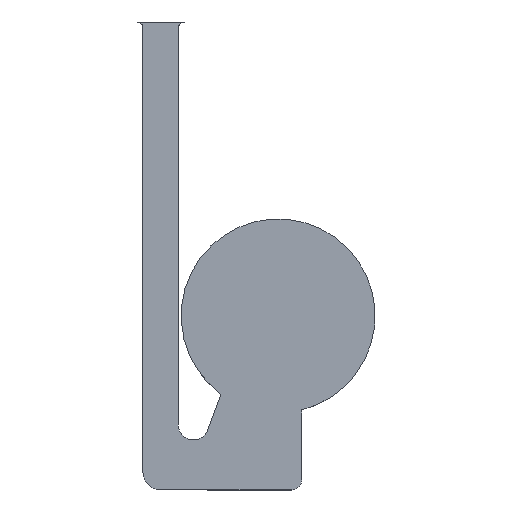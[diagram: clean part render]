
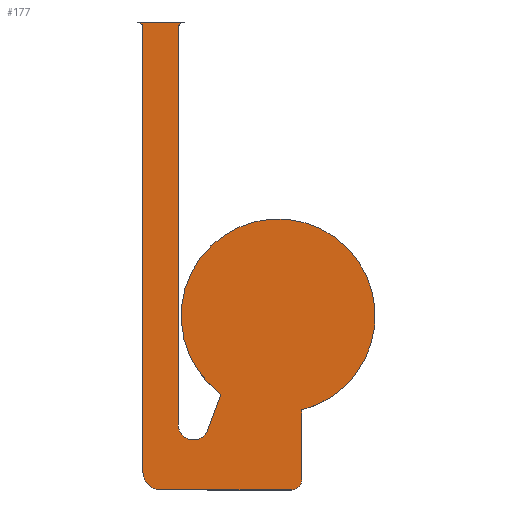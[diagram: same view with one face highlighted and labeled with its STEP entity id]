
A CAD part, top view. The second image highlights one B-rep face of the part: STEP entity #177.
In plain terms, the highlighted planar face has unit normal (0, 0, 1).
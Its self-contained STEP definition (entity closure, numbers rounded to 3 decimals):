
#177 = ADVANCED_FACE( '', ( #428 ), #429, .T. );
#428 = FACE_OUTER_BOUND( '', #764, .T. );
#429 = PLANE( '', #765 );
#764 = EDGE_LOOP( '', ( #1229, #1230, #1231, #1232, #1233, #1234, #1235, #1236, #1237, #1238, #1239, #1240 ) );
#765 = AXIS2_PLACEMENT_3D( '', #1241, #1242, #1243 );
#1229 = ORIENTED_EDGE( '', *, *, #1848, .F. );
#1230 = ORIENTED_EDGE( '', *, *, #1849, .T. );
#1231 = ORIENTED_EDGE( '', *, *, #1829, .F. );
#1232 = ORIENTED_EDGE( '', *, *, #1850, .T. );
#1233 = ORIENTED_EDGE( '', *, *, #1851, .F. );
#1234 = ORIENTED_EDGE( '', *, *, #1790, .T. );
#1235 = ORIENTED_EDGE( '', *, *, #1852, .T. );
#1236 = ORIENTED_EDGE( '', *, *, #1726, .F. );
#1237 = ORIENTED_EDGE( '', *, *, #1787, .T. );
#1238 = ORIENTED_EDGE( '', *, *, #1755, .F. );
#1239 = ORIENTED_EDGE( '', *, *, #1853, .F. );
#1240 = ORIENTED_EDGE( '', *, *, #1854, .F. );
#1241 = CARTESIAN_POINT( '', ( -250., -250., 0. ) );
#1242 = DIRECTION( '', ( 0., 0., 1. ) );
#1243 = DIRECTION( '', ( 0., -1., 0. ) );
#1726 = EDGE_CURVE( '', #2008, #2010, #2011, .F. );
#1755 = EDGE_CURVE( '', #2057, #2060, #2061, .F. );
#1787 = EDGE_CURVE( '', #2008, #2060, #2112, .F. );
#1790 = EDGE_CURVE( '', #2115, #2116, #2117, .T. );
#1829 = EDGE_CURVE( '', #2178, #2180, #2181, .F. );
#1848 = EDGE_CURVE( '', #2209, #2210, #2211, .F. );
#1849 = EDGE_CURVE( '', #2209, #2180, #2212, .T. );
#1850 = EDGE_CURVE( '', #2178, #2213, #2214, .F. );
#1851 = EDGE_CURVE( '', #2115, #2213, #2215, .T. );
#1852 = EDGE_CURVE( '', #2116, #2010, #2216, .F. );
#1853 = EDGE_CURVE( '', #2217, #2057, #2218, .F. );
#1854 = EDGE_CURVE( '', #2210, #2217, #2219, .T. );
#2008 = VERTEX_POINT( '', #2415 );
#2010 = VERTEX_POINT( '', #2418 );
#2011 = LINE( '', #2419, #2420 );
#2057 = VERTEX_POINT( '', #2483 );
#2060 = VERTEX_POINT( '', #2487 );
#2061 = LINE( '', #2488, #2489 );
#2112 = CIRCLE( '', #2554, 82.5 );
#2115 = VERTEX_POINT( '', #2557 );
#2116 = VERTEX_POINT( '', #2558 );
#2117 = LINE( '', #2559, #2560 );
#2178 = VERTEX_POINT( '', #2645 );
#2180 = VERTEX_POINT( '', #2648 );
#2181 = CIRCLE( '', #2649, 5. );
#2209 = VERTEX_POINT( '', #2682 );
#2210 = VERTEX_POINT( '', #2683 );
#2211 = CIRCLE( '', #2684, 5. );
#2212 = LINE( '', #2685, #2686 );
#2213 = VERTEX_POINT( '', #2687 );
#2214 = LINE( '', #2688, #2689 );
#2215 = CIRCLE( '', #2690, 15. );
#2216 = CIRCLE( '', #2691, 8.853 );
#2217 = VERTEX_POINT( '', #2692 );
#2218 = CIRCLE( '', #2693, 13. );
#2219 = LINE( '', #2694, #2695 );
#2415 = CARTESIAN_POINT( '', ( 20., -80.039, 0. ) );
#2418 = CARTESIAN_POINT( '', ( 20., -139.147, 0. ) );
#2419 = CARTESIAN_POINT( '', ( 20., -250., 0. ) );
#2420 = VECTOR( '', #2949, 1000. );
#2483 = CARTESIAN_POINT( '', ( -59.784, -97.008, 0. ) );
#2487 = CARTESIAN_POINT( '', ( -48.711, -66.585, 0. ) );
#2488 = CARTESIAN_POINT( '', ( -66.868, -116.471, 0. ) );
#2489 = VECTOR( '', #2980, 1000. );
#2554 = AXIS2_PLACEMENT_3D( '', #3025, #3026, #3027 );
#2557 = CARTESIAN_POINT( '', ( -100., -148., 0. ) );
#2558 = CARTESIAN_POINT( '', ( 11.147, -148., 0. ) );
#2559 = CARTESIAN_POINT( '', ( -60.404, -148., 0. ) );
#2560 = VECTOR( '', #3031, 1000. );
#2645 = CARTESIAN_POINT( '', ( -115., 245., 0. ) );
#2648 = CARTESIAN_POINT( '', ( -120., 250., 0. ) );
#2649 = AXIS2_PLACEMENT_3D( '', #3092, #3093, #3094 );
#2682 = CARTESIAN_POINT( '', ( -80., 250., 0. ) );
#2683 = CARTESIAN_POINT( '', ( -85., 245., 0. ) );
#2684 = AXIS2_PLACEMENT_3D( '', #3124, #3125, #3126 );
#2685 = CARTESIAN_POINT( '', ( 250., 250., 0. ) );
#2686 = VECTOR( '', #3127, 1000. );
#2687 = CARTESIAN_POINT( '', ( -115., -133., 0. ) );
#2688 = CARTESIAN_POINT( '', ( -115., 260., 0. ) );
#2689 = VECTOR( '', #3128, 1000. );
#2690 = AXIS2_PLACEMENT_3D( '', #3129, #3130, #3131 );
#2691 = AXIS2_PLACEMENT_3D( '', #3132, #3133, #3134 );
#2692 = CARTESIAN_POINT( '', ( -85., -92.561, 0. ) );
#2693 = AXIS2_PLACEMENT_3D( '', #3135, #3136, #3137 );
#2694 = CARTESIAN_POINT( '', ( -85., -250., 0. ) );
#2695 = VECTOR( '', #3138, 1000. );
#2949 = DIRECTION( '', ( 0., 1., 0. ) );
#2980 = DIRECTION( '', ( -0.342, -0.94, 0. ) );
#3025 = CARTESIAN_POINT( '', ( 0., 0., 0. ) );
#3026 = DIRECTION( '', ( 0., 0., -1. ) );
#3027 = DIRECTION( '', ( -1., 0., 0. ) );
#3031 = DIRECTION( '', ( 1., 0., 0. ) );
#3092 = CARTESIAN_POINT( '', ( -120., 245., 0. ) );
#3093 = DIRECTION( '', ( 0., 0., -1. ) );
#3094 = DIRECTION( '', ( -1., 0., 0. ) );
#3124 = CARTESIAN_POINT( '', ( -80., 245., 0. ) );
#3125 = DIRECTION( '', ( 0., 0., -1. ) );
#3126 = DIRECTION( '', ( -1., 0., 0. ) );
#3127 = DIRECTION( '', ( -1., 0., 0. ) );
#3128 = DIRECTION( '', ( 0., 1., 0. ) );
#3129 = CARTESIAN_POINT( '', ( -100., -133., 0. ) );
#3130 = DIRECTION( '', ( 0., 0., -1. ) );
#3131 = DIRECTION( '', ( -1., 0., 0. ) );
#3132 = CARTESIAN_POINT( '', ( 11.147, -139.147, 0. ) );
#3133 = DIRECTION( '', ( 0., 0., -1. ) );
#3134 = DIRECTION( '', ( -1., 0., 0. ) );
#3135 = CARTESIAN_POINT( '', ( -72., -92.561, 0. ) );
#3136 = DIRECTION( '', ( 0., 0., -1. ) );
#3137 = DIRECTION( '', ( -1., 0., 0. ) );
#3138 = DIRECTION( '', ( 0., -1., 0. ) );
